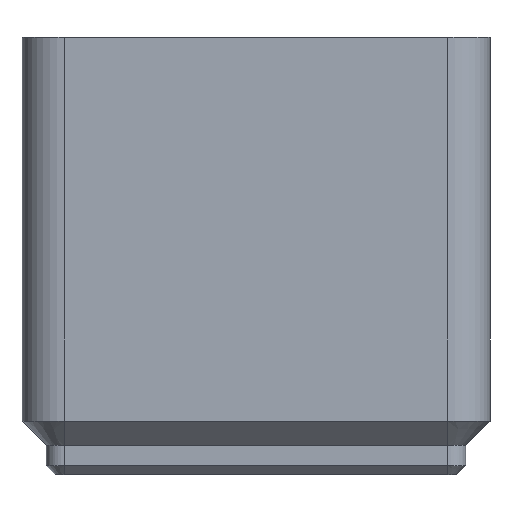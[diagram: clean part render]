
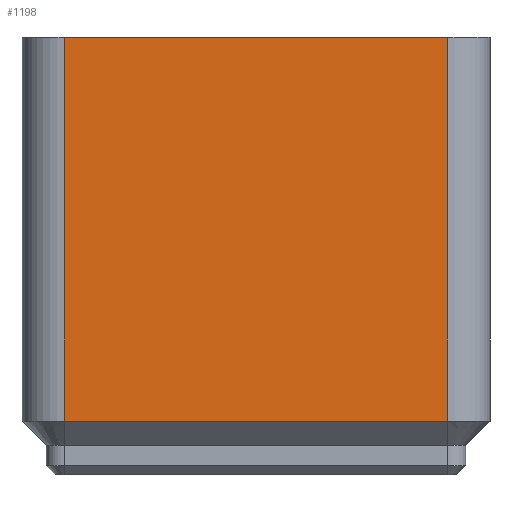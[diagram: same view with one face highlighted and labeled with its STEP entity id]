
A CAD part, left-side view. The second image highlights one B-rep face of the part: STEP entity #1198.
In plain terms, the highlighted planar face has unit normal (-1, 0, 0).
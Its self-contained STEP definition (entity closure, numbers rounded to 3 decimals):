
#416 = PLANE('',#417);
#417 = AXIS2_PLACEMENT_3D('',#418,#419,#420);
#418 = CARTESIAN_POINT('',(-20.75,0.,4.75));
#419 = DIRECTION('',(-0.707,0.,-0.707));
#420 = DIRECTION('',(0.,-1.,-0.));
#793 = VERTEX_POINT('',#794);
#794 = CARTESIAN_POINT('',(-20.75,-17.,4.75));
#812 = EDGE_CURVE('',#793,#813,#815,.T.);
#813 = VERTEX_POINT('',#814);
#814 = CARTESIAN_POINT('',(-20.75,17.,4.75));
#815 = SURFACE_CURVE('',#816,(#820,#827),.PCURVE_S1.);
#816 = LINE('',#817,#818);
#817 = CARTESIAN_POINT('',(-20.75,0.,4.75));
#818 = VECTOR('',#819,1.);
#819 = DIRECTION('',(0.,1.,0.));
#820 = PCURVE('',#416,#821);
#821 = DEFINITIONAL_REPRESENTATION('',(#822),#826);
#822 = LINE('',#823,#824);
#823 = CARTESIAN_POINT('',(0.,0.));
#824 = VECTOR('',#825,1.);
#825 = DIRECTION('',(-1.,0.));
#826 = ( GEOMETRIC_REPRESENTATION_CONTEXT(2) 
PARAMETRIC_REPRESENTATION_CONTEXT() REPRESENTATION_CONTEXT('2D SPACE',''
  ) );
#827 = PCURVE('',#828,#833);
#828 = PLANE('',#829);
#829 = AXIS2_PLACEMENT_3D('',#830,#831,#832);
#830 = CARTESIAN_POINT('',(-20.75,-17.,4.75));
#831 = DIRECTION('',(-1.,0.,0.));
#832 = DIRECTION('',(0.,1.,0.));
#833 = DEFINITIONAL_REPRESENTATION('',(#834),#838);
#834 = LINE('',#835,#836);
#835 = CARTESIAN_POINT('',(17.,0.));
#836 = VECTOR('',#837,1.);
#837 = DIRECTION('',(1.,0.));
#838 = ( GEOMETRIC_REPRESENTATION_CONTEXT(2) 
PARAMETRIC_REPRESENTATION_CONTEXT() REPRESENTATION_CONTEXT('2D SPACE',''
  ) );
#1187 = CYLINDRICAL_SURFACE('',#1188,3.75);
#1188 = AXIS2_PLACEMENT_3D('',#1189,#1190,#1191);
#1189 = CARTESIAN_POINT('',(-17.,-17.,4.75));
#1190 = DIRECTION('',(0.,0.,-1.));
#1191 = DIRECTION('',(-1.,0.,0.));
#1198 = ADVANCED_FACE('',(#1199),#828,.T.);
#1199 = FACE_BOUND('',#1200,.T.);
#1200 = EDGE_LOOP('',(#1201,#1224,#1252,#1278));
#1201 = ORIENTED_EDGE('',*,*,#1202,.T.);
#1202 = EDGE_CURVE('',#793,#1203,#1205,.T.);
#1203 = VERTEX_POINT('',#1204);
#1204 = CARTESIAN_POINT('',(-20.75,-17.,38.8));
#1205 = SURFACE_CURVE('',#1206,(#1210,#1217),.PCURVE_S1.);
#1206 = LINE('',#1207,#1208);
#1207 = CARTESIAN_POINT('',(-20.75,-17.,4.75));
#1208 = VECTOR('',#1209,1.);
#1209 = DIRECTION('',(0.,0.,1.));
#1210 = PCURVE('',#828,#1211);
#1211 = DEFINITIONAL_REPRESENTATION('',(#1212),#1216);
#1212 = LINE('',#1213,#1214);
#1213 = CARTESIAN_POINT('',(0.,0.));
#1214 = VECTOR('',#1215,1.);
#1215 = DIRECTION('',(0.,-1.));
#1216 = ( GEOMETRIC_REPRESENTATION_CONTEXT(2) 
PARAMETRIC_REPRESENTATION_CONTEXT() REPRESENTATION_CONTEXT('2D SPACE',''
  ) );
#1217 = PCURVE('',#1187,#1218);
#1218 = DEFINITIONAL_REPRESENTATION('',(#1219),#1223);
#1219 = LINE('',#1220,#1221);
#1220 = CARTESIAN_POINT('',(6.283,0.));
#1221 = VECTOR('',#1222,1.);
#1222 = DIRECTION('',(0.,-1.));
#1223 = ( GEOMETRIC_REPRESENTATION_CONTEXT(2) 
PARAMETRIC_REPRESENTATION_CONTEXT() REPRESENTATION_CONTEXT('2D SPACE',''
  ) );
#1224 = ORIENTED_EDGE('',*,*,#1225,.T.);
#1225 = EDGE_CURVE('',#1203,#1226,#1228,.T.);
#1226 = VERTEX_POINT('',#1227);
#1227 = CARTESIAN_POINT('',(-20.75,17.,38.8));
#1228 = SURFACE_CURVE('',#1229,(#1233,#1240),.PCURVE_S1.);
#1229 = LINE('',#1230,#1231);
#1230 = CARTESIAN_POINT('',(-20.75,0.,38.8));
#1231 = VECTOR('',#1232,1.);
#1232 = DIRECTION('',(0.,1.,0.));
#1233 = PCURVE('',#828,#1234);
#1234 = DEFINITIONAL_REPRESENTATION('',(#1235),#1239);
#1235 = LINE('',#1236,#1237);
#1236 = CARTESIAN_POINT('',(17.,-34.05));
#1237 = VECTOR('',#1238,1.);
#1238 = DIRECTION('',(1.,0.));
#1239 = ( GEOMETRIC_REPRESENTATION_CONTEXT(2) 
PARAMETRIC_REPRESENTATION_CONTEXT() REPRESENTATION_CONTEXT('2D SPACE',''
  ) );
#1240 = PCURVE('',#1241,#1246);
#1241 = PLANE('',#1242);
#1242 = AXIS2_PLACEMENT_3D('',#1243,#1244,#1245);
#1243 = CARTESIAN_POINT('',(0.,0.,38.8)
  );
#1244 = DIRECTION('',(0.,0.,1.));
#1245 = DIRECTION('',(1.,0.,0.));
#1246 = DEFINITIONAL_REPRESENTATION('',(#1247),#1251);
#1247 = LINE('',#1248,#1249);
#1248 = CARTESIAN_POINT('',(-20.75,0.));
#1249 = VECTOR('',#1250,1.);
#1250 = DIRECTION('',(0.,1.));
#1251 = ( GEOMETRIC_REPRESENTATION_CONTEXT(2) 
PARAMETRIC_REPRESENTATION_CONTEXT() REPRESENTATION_CONTEXT('2D SPACE',''
  ) );
#1252 = ORIENTED_EDGE('',*,*,#1253,.F.);
#1253 = EDGE_CURVE('',#813,#1226,#1254,.T.);
#1254 = SURFACE_CURVE('',#1255,(#1259,#1266),.PCURVE_S1.);
#1255 = LINE('',#1256,#1257);
#1256 = CARTESIAN_POINT('',(-20.75,17.,4.75));
#1257 = VECTOR('',#1258,1.);
#1258 = DIRECTION('',(0.,0.,1.));
#1259 = PCURVE('',#828,#1260);
#1260 = DEFINITIONAL_REPRESENTATION('',(#1261),#1265);
#1261 = LINE('',#1262,#1263);
#1262 = CARTESIAN_POINT('',(34.,0.));
#1263 = VECTOR('',#1264,1.);
#1264 = DIRECTION('',(0.,-1.));
#1265 = ( GEOMETRIC_REPRESENTATION_CONTEXT(2) 
PARAMETRIC_REPRESENTATION_CONTEXT() REPRESENTATION_CONTEXT('2D SPACE',''
  ) );
#1266 = PCURVE('',#1267,#1272);
#1267 = CYLINDRICAL_SURFACE('',#1268,3.75);
#1268 = AXIS2_PLACEMENT_3D('',#1269,#1270,#1271);
#1269 = CARTESIAN_POINT('',(-17.,17.,4.75));
#1270 = DIRECTION('',(0.,0.,-1.));
#1271 = DIRECTION('',(-1.,0.,0.));
#1272 = DEFINITIONAL_REPRESENTATION('',(#1273),#1277);
#1273 = LINE('',#1274,#1275);
#1274 = CARTESIAN_POINT('',(0.,0.));
#1275 = VECTOR('',#1276,1.);
#1276 = DIRECTION('',(0.,-1.));
#1277 = ( GEOMETRIC_REPRESENTATION_CONTEXT(2) 
PARAMETRIC_REPRESENTATION_CONTEXT() REPRESENTATION_CONTEXT('2D SPACE',''
  ) );
#1278 = ORIENTED_EDGE('',*,*,#812,.F.);
